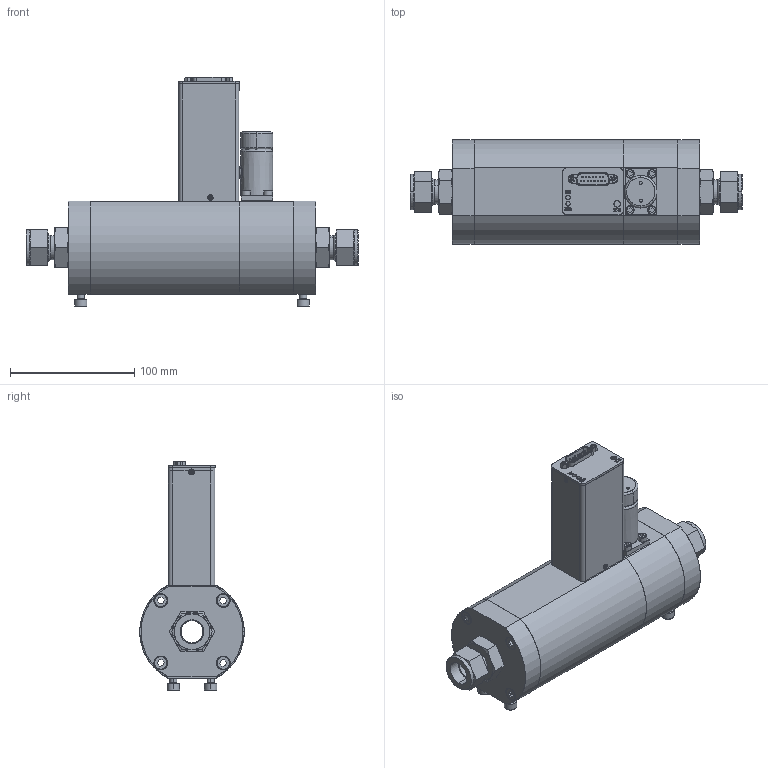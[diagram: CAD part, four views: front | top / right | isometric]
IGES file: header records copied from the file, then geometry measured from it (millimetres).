
Start section: SolidWorks IGES file using analytic representation for surfaces
Global section: file name: C:\Users\SThen\OneDrive - Illinois Tool Works, Inc\Desktop\Steve Then\01 - Working Files\03 - SAG Tickets\#18185 - Step File\SLA5853S2EAB2C2A1.IGS; native system: SolidWorks 2020; preprocessor: SolidWorks 2020; author: SThen; date: 210623.102629; units: inch
Bounding box: 266.87 x 84.03 x 184.34 mm (x, y, z)
Surface area: 185953.5 mm2 (no closed solid volume)
Topology: 0 solids, 0 shells, 987 faces, 12380 edges, 12367 vertices
Faces by surface type: bspline 538, revolution 449
